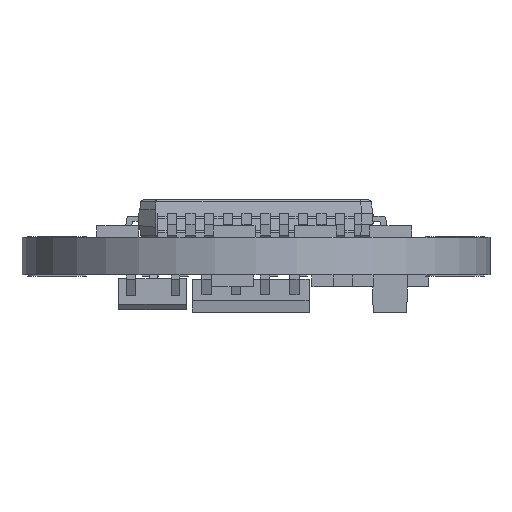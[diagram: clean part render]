
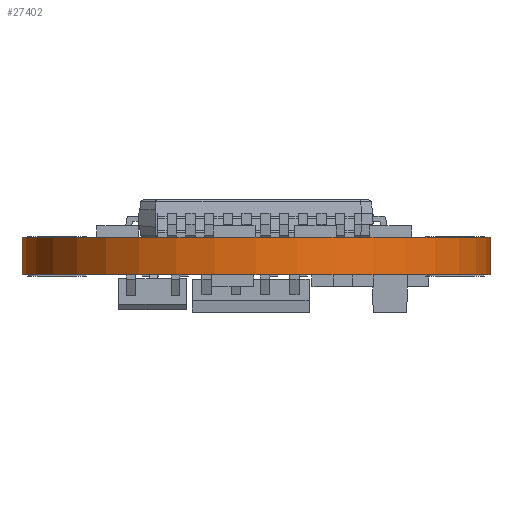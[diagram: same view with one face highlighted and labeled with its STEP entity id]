
A CAD part, front view. The second image highlights one B-rep face of the part: STEP entity #27402.
In plain terms, the highlighted cylindrical face has radius 10 mm (diameter 20 mm), a partial arc.
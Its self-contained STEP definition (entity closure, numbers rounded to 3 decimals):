
#824 = LINE ( 'NONE', #38165, #7836 ) ;
#2991 = DIRECTION ( 'NONE',  ( 0., 0., -1. ) ) ;
#3624 = AXIS2_PLACEMENT_3D ( 'NONE', #13586, #34598, #16574 ) ;
#3633 = EDGE_CURVE ( 'NONE', #30946, #25474, #824, .T. ) ;
#4466 = EDGE_CURVE ( 'NONE', #30999, #4739, #31658, .T. ) ;
#4739 = VERTEX_POINT ( 'NONE', #5050 ) ;
#4811 = DIRECTION ( 'NONE',  ( 0., 0., 1. ) ) ;
#5050 = CARTESIAN_POINT ( 'NONE',  ( 15., 5.002, 0. ) ) ;
#5070 = ORIENTED_EDGE ( 'NONE', *, *, #3633, .F. ) ;
#5489 = ORIENTED_EDGE ( 'NONE', *, *, #4466, .T. ) ;
#6235 = CARTESIAN_POINT ( 'NONE',  ( -5., 5.002, 0. ) ) ;
#7761 = VECTOR ( 'NONE', #4811, 1000. ) ;
#7769 = AXIS2_PLACEMENT_3D ( 'NONE', #20873, #2991, #23884 ) ;
#7836 = VECTOR ( 'NONE', #8152, 1000. ) ;
#8152 = DIRECTION ( 'NONE',  ( 0., 0., 1. ) ) ;
#9829 = CARTESIAN_POINT ( 'NONE',  ( 5., 5.002, -1.6 ) ) ;
#11129 = EDGE_CURVE ( 'NONE', #30999, #30946, #21123, .T. ) ;
#12551 = CARTESIAN_POINT ( 'NONE',  ( -5., 5.002, -1.6 ) ) ;
#13586 = CARTESIAN_POINT ( 'NONE',  ( 5., 5.002, 0. ) ) ;
#14905 = AXIS2_PLACEMENT_3D ( 'NONE', #9829, #15784, #27848 ) ;
#15784 = DIRECTION ( 'NONE',  ( 0., 0., 1. ) ) ;
#16574 = DIRECTION ( 'NONE',  ( -1., 0., 0. ) ) ;
#18777 = CARTESIAN_POINT ( 'NONE',  ( 15., 5.002, -1.6 ) ) ;
#19482 = ORIENTED_EDGE ( 'NONE', *, *, #11129, .F. ) ;
#20781 = EDGE_CURVE ( 'NONE', #4739, #25474, #20809, .T. ) ;
#20809 = CIRCLE ( 'NONE', #3624, 10. ) ;
#20873 = CARTESIAN_POINT ( 'NONE',  ( 5., 5.002, -1.6 ) ) ;
#21123 = CIRCLE ( 'NONE', #7769, 10. ) ;
#23884 = DIRECTION ( 'NONE',  ( -1., 0., 0. ) ) ;
#24170 = FACE_OUTER_BOUND ( 'NONE', #35082, .T. ) ;
#25474 = VERTEX_POINT ( 'NONE', #6235 ) ;
#27402 = ADVANCED_FACE ( 'NONE', ( #24170 ), #36431, .T. ) ;
#27848 = DIRECTION ( 'NONE',  ( 1., 0., 0. ) ) ;
#30946 = VERTEX_POINT ( 'NONE', #12551 ) ;
#30999 = VERTEX_POINT ( 'NONE', #18777 ) ;
#31658 = LINE ( 'NONE', #34698, #7761 ) ;
#34598 = DIRECTION ( 'NONE',  ( 0., 0., -1. ) ) ;
#34698 = CARTESIAN_POINT ( 'NONE',  ( 15., 5.002, -1.6 ) ) ;
#35082 = EDGE_LOOP ( 'NONE', ( #5070, #19482, #5489, #38266 ) ) ;
#36431 = CYLINDRICAL_SURFACE ( 'NONE', #14905, 10. ) ;
#38165 = CARTESIAN_POINT ( 'NONE',  ( -5., 5.002, -1.6 ) ) ;
#38266 = ORIENTED_EDGE ( 'NONE', *, *, #20781, .T. ) ;
